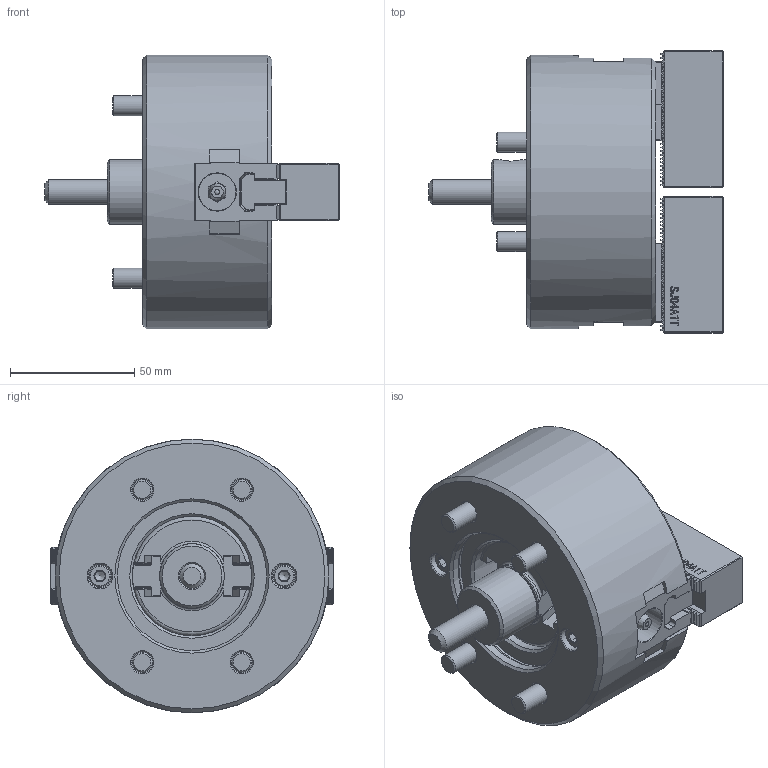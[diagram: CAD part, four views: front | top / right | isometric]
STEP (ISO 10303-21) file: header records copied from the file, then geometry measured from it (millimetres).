
FILE_DESCRIPTION (( 'STEP AP214' ), '1' );
FILE_NAME ('DT1_NT04_OUTSIDE_VIEW_HOL.STEP', '2024-05-14T00:38:06', ( '' ), ( '' ), 'SwSTEP 2.0', 'SolidWorks 2022', '' );
FILE_SCHEMA (( 'AUTOMOTIVE_DESIGN' ));
Length unit declared in the file: millimetre
Products named in the file (10): DT1_NT04_M8x22^DT1_NT04_ﾃﾞﾌｫﾙﾄ; DT1_NT04_DN^DT1_NT04_ﾃﾞﾌｫﾙﾄ; DT1_NT04_TNUT^DT1_NT04_ﾃﾞﾌｫﾙﾄ; DT1_NT04_M3x8^DT1_NT04_ﾃﾞﾌｫﾙﾄ; DT1_NT04_COVER^DT1_NT04_ﾃﾞﾌｫﾙﾄ; DT1_NT04_SOFTJAW^DT1_NT04_ﾃﾞﾌｫﾙﾄ; DT1_NT04_BASE^DT1_NT04_ﾃﾞﾌｫﾙﾄ; DT1_NT04_M8x55^DT1_NT04_ﾃﾞﾌｫﾙﾄ; DT1_NT04_DRAWSCREW^DT1_NT04_ﾃﾞﾌｫﾙﾄ; DT1_NT04_OUTSIDE_VIEW_HOL
Assembly tree (20 placements, depth 2):
  DT1_NT04_OUTSIDE_VIEW_HOL
    DT1_NT04_SOFTJAW^DT1_NT04_ﾃﾞﾌｫﾙﾄ  x2
    DT1_NT04_TNUT^DT1_NT04_ﾃﾞﾌｫﾙﾄ  x2
    DT1_NT04_COVER^DT1_NT04_ﾃﾞﾌｫﾙﾄ
    DT1_NT04_DRAWSCREW^DT1_NT04_ﾃﾞﾌｫﾙﾄ
    DT1_NT04_DN^DT1_NT04_ﾃﾞﾌｫﾙﾄ
    DT1_NT04_BASE^DT1_NT04_ﾃﾞﾌｫﾙﾄ
    DT1_NT04_M8x22^DT1_NT04_ﾃﾞﾌｫﾙﾄ  x4
    DT1_NT04_M8x55^DT1_NT04_ﾃﾞﾌｫﾙﾄ  x4
    DT1_NT04_M3x8^DT1_NT04_ﾃﾞﾌｫﾙﾄ  x4
Bounding box: 118.25 x 113.32 x 110 mm (x, y, z)
Volume: 522733.3 mm3; surface area: 106622.5 mm2
Topology: 20 solids, 22 shells, 2547 faces, 7138 edges, 4689 vertices
Faces by surface type: plane 1798, cylinder 418, bspline 170, cone 134, torus 25, sphere 2
Full cylindrical faces by diameter (mm): 2 x2, 2.5 x4, 2.693 x4, 3 x4, 3.2 x4, 5 x2, 6 x4, 6.3 x4, 6.8 x4, 7 x1, 8 x8, 8.5 x9, 8.72 x2, 9.5 x2, 10 x2, 11 x1, 13.27 x8, 13.5 x4, 14 x5, 14.5 x1, 14.6 x1, 15 x2, 26 x1, 48 x1, 60 x1, 61 x1, 110 x1
Entity records: 66882 total; most frequent: CARTESIAN_POINT 19217, ORIENTED_EDGE 10474, DIRECTION 8532, EDGE_CURVE 5237, VECTOR 4012, LINE 4012, VERTEX_POINT 3514, AXIS2_PLACEMENT_3D 2260
